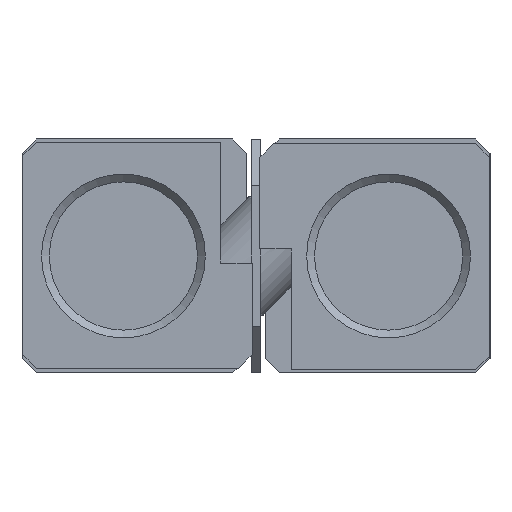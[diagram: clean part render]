
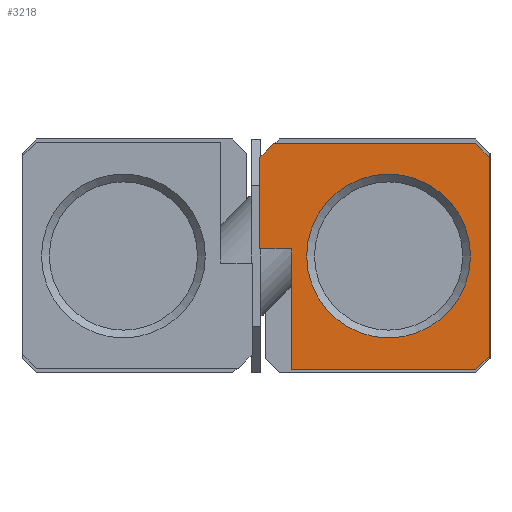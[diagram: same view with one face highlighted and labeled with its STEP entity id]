
A CAD part, left-side view. The second image highlights one B-rep face of the part: STEP entity #3218.
In plain terms, the highlighted planar face has unit normal (-1, 0, 0).
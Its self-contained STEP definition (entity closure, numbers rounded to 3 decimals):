
#109=CIRCLE('',#3445,5.25);
#294=ORIENTED_EDGE('',*,*,#1125,.T.);
#295=ORIENTED_EDGE('',*,*,#1107,.F.);
#296=ORIENTED_EDGE('',*,*,#1124,.F.);
#297=ORIENTED_EDGE('',*,*,#1122,.F.);
#298=ORIENTED_EDGE('',*,*,#1120,.F.);
#299=ORIENTED_EDGE('',*,*,#1118,.F.);
#300=ORIENTED_EDGE('',*,*,#1116,.F.);
#301=ORIENTED_EDGE('',*,*,#1114,.F.);
#302=ORIENTED_EDGE('',*,*,#1112,.F.);
#303=ORIENTED_EDGE('',*,*,#1110,.F.);
#1107=EDGE_CURVE('',#1535,#1536,#1857,.T.);
#1110=EDGE_CURVE('',#1536,#1537,#1860,.T.);
#1112=EDGE_CURVE('',#1537,#1538,#1862,.T.);
#1114=EDGE_CURVE('',#1538,#1539,#1864,.T.);
#1116=EDGE_CURVE('',#1539,#1540,#1866,.T.);
#1118=EDGE_CURVE('',#1540,#1541,#1868,.T.);
#1120=EDGE_CURVE('',#1541,#1542,#1870,.T.);
#1122=EDGE_CURVE('',#1542,#1543,#1872,.T.);
#1124=EDGE_CURVE('',#1543,#1535,#1874,.T.);
#1125=EDGE_CURVE('',#1544,#1544,#109,.T.);
#1535=VERTEX_POINT('',#4720);
#1536=VERTEX_POINT('',#4721);
#1537=VERTEX_POINT('',#4726);
#1538=VERTEX_POINT('',#4730);
#1539=VERTEX_POINT('',#4734);
#1540=VERTEX_POINT('',#4738);
#1541=VERTEX_POINT('',#4742);
#1542=VERTEX_POINT('',#4746);
#1543=VERTEX_POINT('',#4750);
#1544=VERTEX_POINT('',#4756);
#1857=LINE('',#4719,#2211);
#1860=LINE('',#4725,#2214);
#1862=LINE('',#4729,#2216);
#1864=LINE('',#4733,#2218);
#1866=LINE('',#4737,#2220);
#1868=LINE('',#4741,#2222);
#1870=LINE('',#4745,#2224);
#1872=LINE('',#4749,#2226);
#1874=LINE('',#4753,#2228);
#2211=VECTOR('',#3787,1000.);
#2214=VECTOR('',#3792,1000.);
#2216=VECTOR('',#3796,1000.);
#2218=VECTOR('',#3800,1000.);
#2220=VECTOR('',#3804,1000.);
#2222=VECTOR('',#3808,1000.);
#2224=VECTOR('',#3812,1000.);
#2226=VECTOR('',#3816,1000.);
#2228=VECTOR('',#3820,1000.);
#2538=EDGE_LOOP('',(#294));
#2539=EDGE_LOOP('',(#295,#296,#297,#298,#299,#300,#301,#302,#303));
#2808=FACE_BOUND('',#2538,.T.);
#2809=FACE_BOUND('',#2539,.T.);
#3074=PLANE('',#3444);
#3218=ADVANCED_FACE('',(#2808,#2809),#3074,.F.);
#3444=AXIS2_PLACEMENT_3D('',#4754,#3821,#3822);
#3445=AXIS2_PLACEMENT_3D('',#4755,#3823,#3824);
#3787=DIRECTION('',(0.,-1.,0.));
#3792=DIRECTION('',(0.,-0.707,-0.707));
#3796=DIRECTION('',(0.,0.,-1.));
#3800=DIRECTION('',(0.,0.707,-0.707));
#3804=DIRECTION('',(0.,1.,0.));
#3808=DIRECTION('',(0.,0.,1.));
#3812=DIRECTION('',(0.,1.,0.));
#3816=DIRECTION('',(0.,0.,1.));
#3820=DIRECTION('',(0.,-0.707,0.707));
#3821=DIRECTION('',(1.,0.,0.));
#3822=DIRECTION('',(0.,0.,-1.));
#3823=DIRECTION('',(1.,0.,0.));
#3824=DIRECTION('',(0.,0.,-1.));
#4719=CARTESIAN_POINT('',(0.,-1.12,7.2));
#4720=CARTESIAN_POINT('',(0.,-1.12,7.2));
#4721=CARTESIAN_POINT('',(0.,-14.08,7.2));
#4725=CARTESIAN_POINT('',(0.,-14.08,7.2));
#4726=CARTESIAN_POINT('',(0.,-14.95,6.33));
#4729=CARTESIAN_POINT('',(0.,-14.95,6.33));
#4730=CARTESIAN_POINT('',(0.,-14.95,-6.43));
#4733=CARTESIAN_POINT('',(0.,-14.95,-6.43));
#4734=CARTESIAN_POINT('',(0.,-14.08,-7.3));
#4737=CARTESIAN_POINT('',(0.,-14.08,-7.3));
#4738=CARTESIAN_POINT('',(0.,-2.25,-7.3));
#4741=CARTESIAN_POINT('',(0.,-2.25,-7.3));
#4742=CARTESIAN_POINT('',(0.,-2.25,0.45));
#4745=CARTESIAN_POINT('',(0.,-2.25,0.45));
#4746=CARTESIAN_POINT('',(0.,-0.25,0.45));
#4749=CARTESIAN_POINT('',(0.,-0.25,0.45));
#4750=CARTESIAN_POINT('',(0.,-0.25,6.33));
#4753=CARTESIAN_POINT('',(0.,-0.25,6.33));
#4754=CARTESIAN_POINT('',(0.,0.,0.));
#4755=CARTESIAN_POINT('',(0.,-8.5,0.));
#4756=CARTESIAN_POINT('',(0.,-8.5,-5.25));
